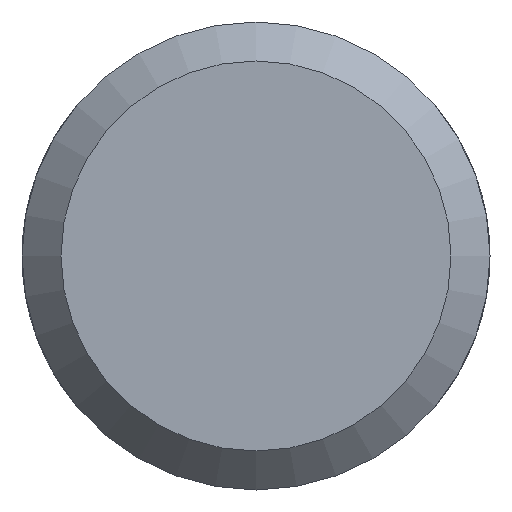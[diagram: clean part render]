
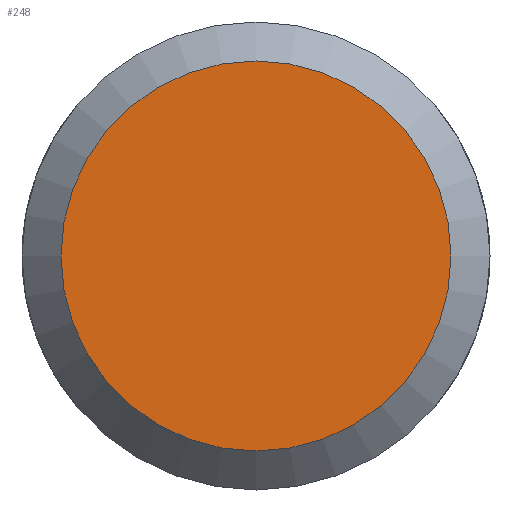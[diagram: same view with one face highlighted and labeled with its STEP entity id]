
A CAD part, front view. The second image highlights one B-rep face of the part: STEP entity #248.
In plain terms, the highlighted planar face has unit normal (0, -1, 0).
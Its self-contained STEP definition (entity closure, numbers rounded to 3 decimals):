
#118=FACE_OUTER_BOUND('',#323,.T.);
#218=PLANE('',#624);
#248=ADVANCED_FACE('',(#118),#218,.F.);
#323=EDGE_LOOP('',(#433));
#433=ORIENTED_EDGE('',*,*,#554,.T.);
#498=VERTEX_POINT('',#907);
#554=EDGE_CURVE('',#498,#498,#576,.T.);
#576=CIRCLE('',#623,5.);
#623=AXIS2_PLACEMENT_3D('',#906,#757,#758);
#624=AXIS2_PLACEMENT_3D('',#908,#759,#760);
#757=DIRECTION('',(0.,-1.,0.));
#758=DIRECTION('',(0.,0.,1.));
#759=DIRECTION('',(0.,1.,0.));
#760=DIRECTION('',(0.,0.,1.));
#906=CARTESIAN_POINT('',(0.,-91.35,0.));
#907=CARTESIAN_POINT('',(0.,-91.35,5.));
#908=CARTESIAN_POINT('',(6.,-91.35,0.));
